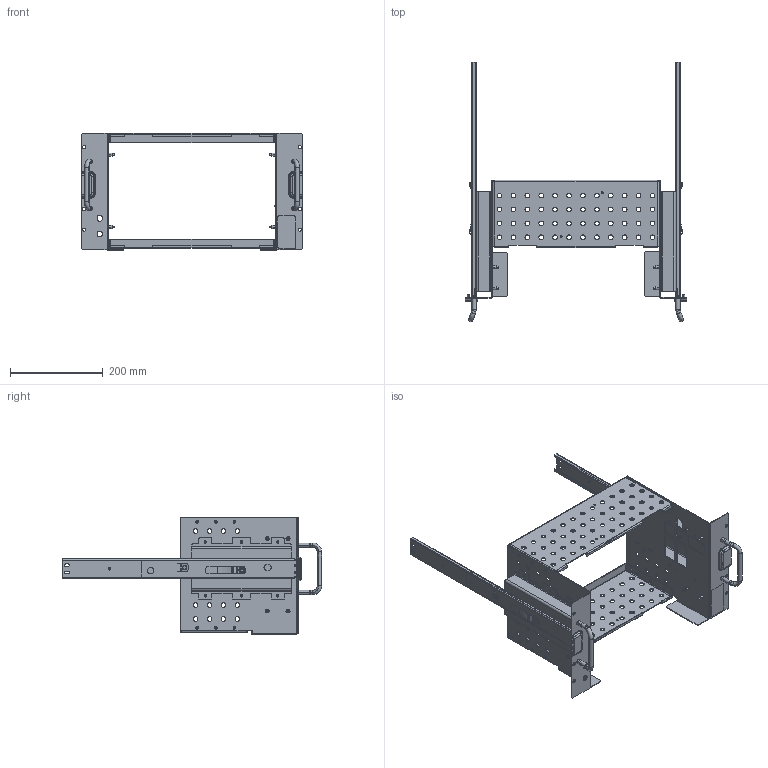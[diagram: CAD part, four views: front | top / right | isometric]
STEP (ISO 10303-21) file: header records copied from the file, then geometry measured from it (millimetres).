
FILE_DESCRIPTION((''),'2;1');
FILE_NAME('RM3_ASM','2019-05-31T',('nclayton'),(''),'CREO PARAMETRIC BY PTC INC, 2016050','CREO PARAMETRIC BY PTC INC, 2016050','');
FILE_SCHEMA(('CONFIG_CONTROL_DESIGN'));
Length unit declared in the file: inch
Products named in the file (37): BRACKET_RACKMOUNT_LEFT_CLT; SO-85_1-10; BRACKET_RACK-SLIDE_MNT_RT_CLT; CLS-M4-2; BRACKET_RACK-SLIDE_MNT_RT_CLT_ASM; RIVET_2XFH_157-177_RANGE_LIB; BRACKET_RACKMOUNT_LEFT_CLT_ASM; BRACKET_RACKMOUNT_RT_CLT; BRACKET_RACKMOUNT_RT_CLT_ASM; BRACKET_RACKMOUNT_BOTTOM_CLT; CLS-M3-2; BRACKET_RACKMOUNT_BOTTOM_CLT_ASM; RACK_SLIDE_SKEL_R66; 351109500_RH_STATIONARY; 351_SPRING_STOP_1; 351_BUTTON_1; 351_SPRING_STOP_1FLAT; 351_STOP_ASSY_1_ASM; 351_STOP_PIN; 351109500_RH_STATIONARY_ASSY_ASM; 351109500_RH_INTERMEDIATE; 351109500_RH_CHASSIS; 351_SPRING_STOP_3; 351_BUTTON_3; 351_STOP_ASSY_3_ASM; 351109500_RH_CHASSIS_ASSY_ASM; RACK_SLIDE_R66_ASM; RACKMNT_HANDLE_HPP; SCREW_FH_10-32X50_POZ_SS_LK_LIB; HARDWARE_RACKMOUNT_ASSY_KIT_CLT_ASM; SCREW_PH_M4X07X6_TX20_LIB; SCREW_PH_M3X05X6_TX10_LIB; SCREW_PH_M4X07X16_TX20_LIB; LABEL_TIP-CAUTION_RACKMOUNT_ATH; 212053500; MODULE_RACKMOUNT_CLT_ASM; RM3_ASM
Assembly tree (94 placements, depth 6):
  RM3_ASM
    MODULE_RACKMOUNT_CLT_ASM
      BRACKET_RACKMOUNT_LEFT_CLT_ASM
        BRACKET_RACKMOUNT_LEFT_CLT
        SO-85_1-10  x4
        BRACKET_RACK-SLIDE_MNT_RT_CLT_ASM
          BRACKET_RACK-SLIDE_MNT_RT_CLT
          CLS-M4-2  x3
        RIVET_2XFH_157-177_RANGE_LIB  x6
      BRACKET_RACKMOUNT_RT_CLT_ASM
        BRACKET_RACKMOUNT_RT_CLT
        SO-85_1-10  x4
        BRACKET_RACK-SLIDE_MNT_RT_CLT_ASM
          BRACKET_RACK-SLIDE_MNT_RT_CLT
          CLS-M4-2  x3
        RIVET_2XFH_157-177_RANGE_LIB  x6
      BRACKET_RACKMOUNT_BOTTOM_CLT_ASM  x2
        BRACKET_RACKMOUNT_BOTTOM_CLT
        CLS-M3-2
      RACK_SLIDE_R66_ASM  x2
        RACK_SLIDE_SKEL_R66
        351109500_RH_STATIONARY_ASSY_ASM
          351109500_RH_STATIONARY
          351_STOP_ASSY_1_ASM
            351_SPRING_STOP_1
            351_BUTTON_1
            351_SPRING_STOP_1FLAT
          351_STOP_PIN
        351109500_RH_INTERMEDIATE
        351109500_RH_CHASSIS_ASSY_ASM
          351109500_RH_CHASSIS
          351_STOP_ASSY_3_ASM
            351_SPRING_STOP_3
            351_BUTTON_3
      HARDWARE_RACKMOUNT_ASSY_KIT_CLT_ASM
        RACKMNT_HANDLE_HPP  x2
        SCREW_FH_10-32X50_POZ_SS_LK_LIB  x4
      SCREW_PH_M4X07X6_TX20_LIB  x6
      SCREW_PH_M3X05X6_TX10_LIB  x12
      SCREW_PH_M4X07X16_TX20_LIB  x8
      LABEL_TIP-CAUTION_RACKMOUNT_ATH
      212053500  x4
Bounding box: 478.16 x 559.28 x 253.68 mm (x, y, z)
Volume: 940860.2 mm3; surface area: 1035825.5 mm2
Topology: 99 solids, 111 shells, 3548 faces, 8608 edges, 5352 vertices
Faces by surface type: plane 1656, cylinder 1556, cone 204, torus 92, bspline 20, sphere 20
Entity records: 53670 total; most frequent: DIRECTION 7800, CARTESIAN_POINT 7274, ORIENTED_EDGE 6568, PRESENTATION_STYLE_ASSIGNMENT 3360, STYLED_ITEM 3360, EDGE_CURVE 3286, CURVE_STYLE 3016, AXIS2_PLACEMENT_3D 2981
